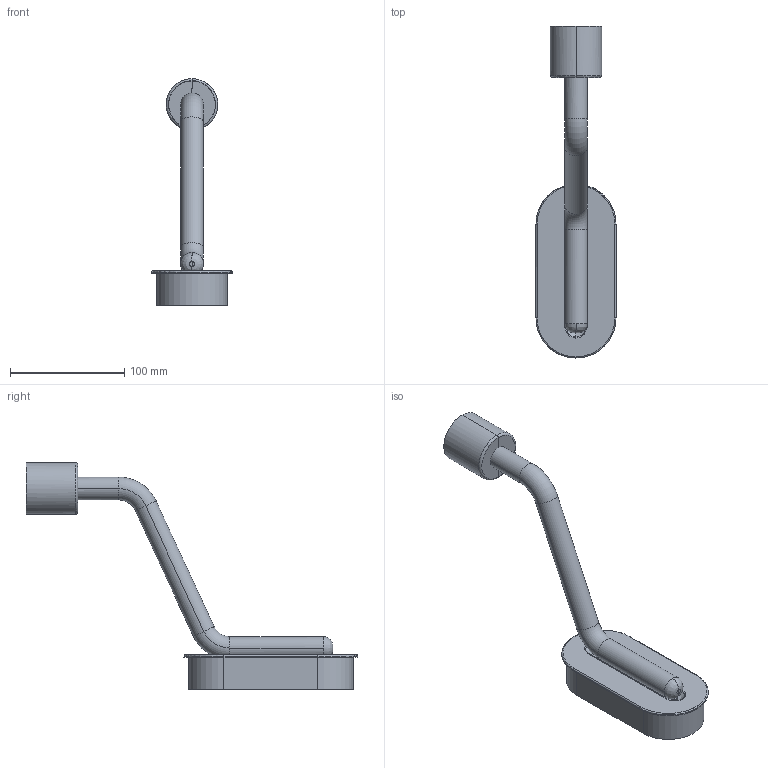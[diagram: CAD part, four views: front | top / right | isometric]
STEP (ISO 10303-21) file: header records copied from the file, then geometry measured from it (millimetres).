
FILE_DESCRIPTION(/* description */ (''),/* implementation_level */ '2;1');
FILE_NAME(/* name */ 'C:\Users\FrancoSartori\Documents\FARO\01_En Proceso\00_ETERNA\03_Publicación\24005.stp',/* time_stamp */ '2021-06-01T11:12:50+02:00',/* author */ ('FrancoSartori'),/* organization */ (''),/* preprocessor_version */ 'ST-DEVELOPER v18.1',/* originating_system */ 'AutoCAD Mechanical',/* authorisation */ '');
FILE_SCHEMA (('AUTOMOTIVE_DESIGN { 1 0 10303 214 3 1 1 }'));
Length unit declared in the file: millimetre
Products named in the file (2): Product; 24005-10_ 24005-11_ 24005-12_ - structure-561495-_3D_
Assembly tree (1 placements, depth 2):
  Product
    24005-10_ 24005-11_ 24005-12_ - structure-561495-_3D_
Bounding box: 70 x 289.94 x 197.94 mm (x, y, z)
Volume: 146022.4 mm3; surface area: 83169.2 mm2
Topology: 4 solids, 4 shells, 93 faces, 239 edges, 158 vertices
Faces by surface type: plane 35, cylinder 34, torus 14, bspline 10
Entity records: 3567 total; most frequent: CARTESIAN_POINT 1432, ORIENTED_EDGE 478, DIRECTION 353, EDGE_CURVE 239, VERTEX_POINT 158, AXIS2_PLACEMENT_3D 128, EDGE_LOOP 103, B_SPLINE_CURVE_WITH_KNOTS 99
